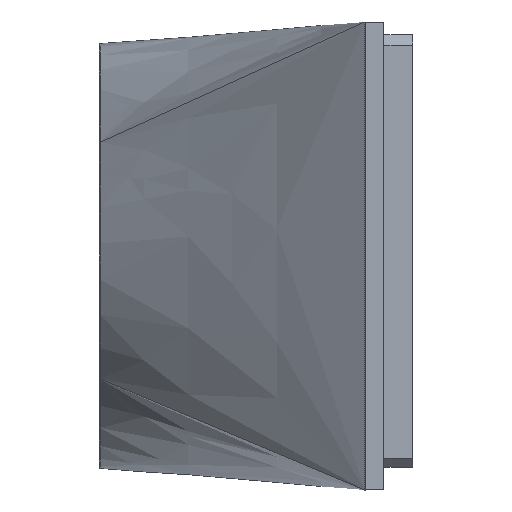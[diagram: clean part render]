
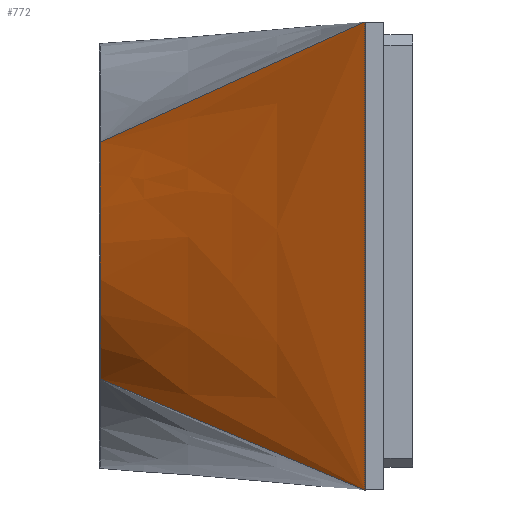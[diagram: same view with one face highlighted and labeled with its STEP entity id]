
A CAD part, front view. The second image highlights one B-rep face of the part: STEP entity #772.
In plain terms, the highlighted free-form (B-spline) face has degree [3, 3] with [6, 4] control points.
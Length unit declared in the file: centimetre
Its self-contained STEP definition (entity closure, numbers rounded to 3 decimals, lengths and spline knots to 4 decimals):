
#19=B_SPLINE_SURFACE_WITH_KNOTS($,3,3,((#1144,#1145,#1146,#1147),(#1148,
#1149,#1150,#1151),(#1152,#1153,#1154,#1155),(#1156,#1157,#1158,#1159),
(#1160,#1161,#1162,#1163),(#1164,#1165,#1166,#1167)),.UNSPECIFIED.,.F.,
 .F.,.F.,(4,1,1,4),(4,4),(0.,0.2857,0.5714,
1.),(0.,1.),.UNSPECIFIED.);
#53=CIRCLE($,#823,3.7);
#69=FACE_OUTER_BOUND($,#115,.T.);
#115=EDGE_LOOP($,(#546,#547,#548,#549));
#196=LINE($,#1109,#266);
#210=LINE($,#1169,#280);
#211=LINE($,#1171,#281);
#266=VECTOR($,#875,8.1513);
#280=VECTOR($,#903,6.2509);
#281=VECTOR($,#904,6.2387);
#340=VERTEX_POINT($,#1107);
#341=VERTEX_POINT($,#1108);
#356=VERTEX_POINT($,#1168);
#357=VERTEX_POINT($,#1170);
#416=EDGE_CURVE($,#340,#341,#196,.T.);
#434=EDGE_CURVE($,#356,#341,#210,.T.);
#435=EDGE_CURVE($,#357,#340,#211,.T.);
#436=EDGE_CURVE($,#356,#357,#53,.T.);
#546=ORIENTED_EDGE($,*,*,#434,.T.);
#547=ORIENTED_EDGE($,*,*,#416,.F.);
#548=ORIENTED_EDGE($,*,*,#435,.F.);
#549=ORIENTED_EDGE($,*,*,#436,.F.);
#772=ADVANCED_FACE($,(#69),#19,.F.);
#823=AXIS2_PLACEMENT_3D($,#1172,#905,#906);
#875=DIRECTION($,(0.,0.,-1.));
#903=DIRECTION($,(0.738,-0.6,-0.309));
#904=DIRECTION($,(0.74,-0.584,0.335));
#905=DIRECTION('center_axis',(-1.,0.,0.));
#906=DIRECTION('ref_axis',(0.,0.,-1.));
#1107=CARTESIAN_POINT('',(-21.7851,10.129,9.9013));
#1108=CARTESIAN_POINT('',(-21.7851,10.1285,1.75));
#1109=CARTESIAN_POINT($,(-21.7851,10.1288,5.826));
#1144=CARTESIAN_POINT('Ctrl Pts',(-26.3988,13.8764,3.6841));
#1145=CARTESIAN_POINT('Ctrl Pts',(-24.8609,12.6271,3.0394));
#1146=CARTESIAN_POINT('Ctrl Pts',(-23.323,11.3778,2.3947));
#1147=CARTESIAN_POINT('Ctrl Pts',(-21.7851,10.1285,1.75));
#1148=CARTESIAN_POINT('Ctrl Pts',(-26.3988,13.6352,4.0239));
#1149=CARTESIAN_POINT('Ctrl Pts',(-24.8609,12.4664,3.5247));
#1150=CARTESIAN_POINT('Ctrl Pts',(-23.323,11.2974,3.0255));
#1151=CARTESIAN_POINT('Ctrl Pts',(-21.7851,10.1286,2.5263));
#1152=CARTESIAN_POINT('Ctrl Pts',(-26.3988,13.2693,4.7858));
#1153=CARTESIAN_POINT('Ctrl Pts',(-24.8609,12.2226,4.5501));
#1154=CARTESIAN_POINT('Ctrl Pts',(-23.323,11.1754,4.3146));
#1155=CARTESIAN_POINT('Ctrl Pts',(-21.7851,10.1287,4.0789));
#1156=CARTESIAN_POINT('Ctrl Pts',(-26.3988,13.1053,6.2568));
#1157=CARTESIAN_POINT('Ctrl Pts',(-24.8609,12.1131,6.4365));
#1158=CARTESIAN_POINT('Ctrl Pts',(-23.323,11.121,6.6163));
#1159=CARTESIAN_POINT('Ctrl Pts',(-21.7851,10.1288,6.796));
#1160=CARTESIAN_POINT('Ctrl Pts',(-26.3988,13.4347,7.2803));
#1161=CARTESIAN_POINT('Ctrl Pts',(-24.8609,12.3331,7.7657));
#1162=CARTESIAN_POINT('Ctrl Pts',(-23.323,11.2304,8.2515));
#1163=CARTESIAN_POINT('Ctrl Pts',(-21.7851,10.1289,8.7368));
#1164=CARTESIAN_POINT('Ctrl Pts',(-26.3988,13.7697,7.8082));
#1165=CARTESIAN_POINT('Ctrl Pts',(-24.8609,12.5561,8.5059));
#1166=CARTESIAN_POINT('Ctrl Pts',(-23.323,11.3425,9.2036));
#1167=CARTESIAN_POINT('Ctrl Pts',(-21.7851,10.129,9.9013));
#1168=CARTESIAN_POINT('',(-26.3988,13.8764,3.6841));
#1169=CARTESIAN_POINT($,(-26.3988,13.8764,3.6841));
#1170=CARTESIAN_POINT('',(-26.3988,13.7697,7.8082));
#1171=CARTESIAN_POINT($,(-26.3988,13.7697,7.8082));
#1172=CARTESIAN_POINT('Origin',(-26.3988,16.8937,5.8256));
